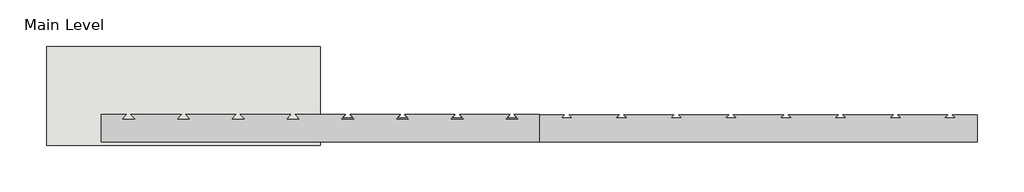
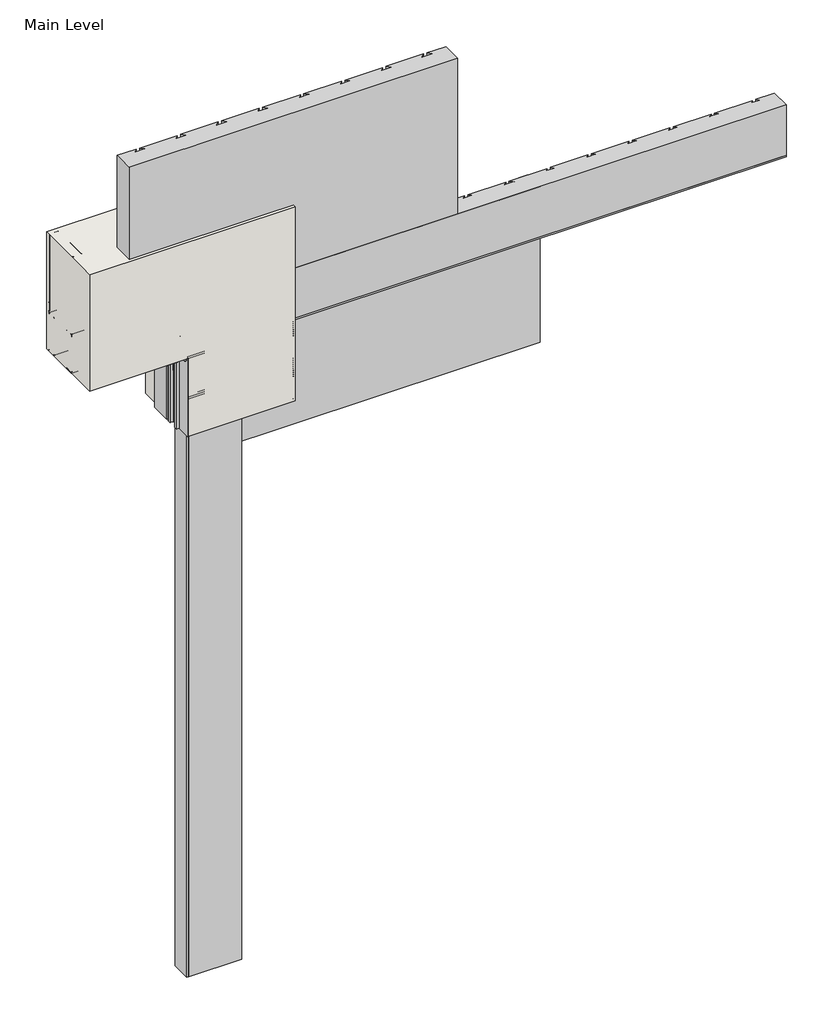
# One storey, incomplete: 28 proxies, 1 wall.
"""IFC4 building model written with IfcOpenShell, lengths in millimetres."""

from ifc_helpers import new_model, si_unit, frame, origin, place, context, project, spatial, polyline, outline, extrude, transform, mapped, element, save
from components import generic_models_31547c53, generic_models_0b6704b8, generic_models_233bf4a6, generic_models_0795693d, generic_models_cb092f88, generic_models_04f31e3c, generic_models_08e6521c, generic_models_d28646c3, proxy_4c3b85e5, proxy_998bcb27, proxy_b027fc18, finish_coat_filler_finish_coat_filler_f99f7fa1, masonry_sill_masonry_sill_85e186c2, masonry_sill1_masonry_sill_665cf46e, masonry_sill2_masonry_sill_baa15611, proxy_a3fd9b0b, proxy_3a0ad636, proxy_0073da47, sealant_sealant_3a8dd322, window_header_window_header_abd4ef46, wood_blocking_5320d369

model = new_model("IFC4")

# Units and contexts
model_context = context("Model", 3, world=origin())
ifc_project = project(units=[si_unit("LENGTHUNIT", "METRE", prefix="MILLI")], contexts=[model_context])

# Site, building, storey
site = spatial("IfcSite", under=ifc_project)
building = spatial("IfcBuilding", under=site)
storey = spatial("IfcBuildingStorey", under=building, Name="Main Level", Elevation=0.0)

# Proxies
placement = place(None, origin())
generic_models_shape = generic_models_31547c53(model_context)
element("IfcBuildingElementProxy", 1, Name="Durabond Generic Model Sealant Vent : Durabond Generic Model Sealant Vent", ObjectType="Durabond Generic Model Sealant Vent : Durabond Generic Model Sealant Vent", at=placement, inside=storey, context=model_context, shape_type="MappedRepresentation", body=[
    mapped(generic_models_shape, transform((26800.7195523, 547.6393211, 304.2607023), x_axis=(1.0, 0.0, 0.0), y_axis=(0.0, 0.08715574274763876, -0.9961946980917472), z_axis=(0.0, 0.9961946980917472, 0.08715574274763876))),
])
generic_models_2_shape = generic_models_0b6704b8(model_context)
element("IfcBuildingElementProxy", 2, Name="Durabond Generic Model Insulation Adhesive Flat : Durabond Generic Model Insulation Adhesive Flat", ObjectType="Durabond Generic Model Insulation Adhesive Flat : Durabond Generic Model Insulation Adhesive Flat", at=placement, inside=storey, context=model_context, shape_type="MappedRepresentation", body=[
    mapped(generic_models_2_shape, transform((26679.6726773, 627.6316297, 381.0), x_axis=(1.0, 0.0, 0.0), y_axis=(0.0, 1.0, 0.0), z_axis=(0.0, 0.0, 1.0))),
])
element("IfcBuildingElementProxy", 3, Name="Durabond Generic Model Insulation Adhesive Flat : Durabond Generic Model Insulation Adhesive Flat", ObjectType="Durabond Generic Model Insulation Adhesive Flat : Durabond Generic Model Insulation Adhesive Flat", at=placement, inside=storey, context=model_context, shape_type="MappedRepresentation", body=[
    mapped(generic_models_2_shape, transform((26755.8726773, 627.6316297, 381.0), x_axis=(1.0, 0.0, 0.0), y_axis=(0.0, 1.0, 0.0), z_axis=(0.0, 0.0, 1.0))),
])
element("IfcBuildingElementProxy", 4, Name="Durabond Generic Model Insulation Adhesive Flat : Durabond Generic Model Insulation Adhesive Flat", ObjectType="Durabond Generic Model Insulation Adhesive Flat : Durabond Generic Model Insulation Adhesive Flat", at=placement, inside=storey, context=model_context, shape_type="MappedRepresentation", body=[
    mapped(generic_models_2_shape, transform((26832.0726773, 627.6316297, 381.0), x_axis=(1.0, 0.0, 0.0), y_axis=(0.0, 1.0, 0.0), z_axis=(0.0, 0.0, 1.0))),
])
generic_models_3_shape = generic_models_233bf4a6(model_context)
element("IfcBuildingElementProxy", 5, Name="Durabond Generic Model Insulation Adhesive Flat : Durabond Generic Model Insulation Adhesive Flat", ObjectType="Durabond Generic Model Insulation Adhesive Flat : Durabond Generic Model Insulation Adhesive Flat", at=placement, inside=storey, context=model_context, shape_type="MappedRepresentation", body=[
    mapped(generic_models_3_shape, transform((26908.2726773, 627.6316297, 0.0), x_axis=(1.0, 0.0, 0.0), y_axis=(0.0, 1.0, 0.0), z_axis=(0.0, 0.0, 1.0))),
])
element("IfcBuildingElementProxy", 6, Name="Durabond Generic Model Insulation Adhesive Flat : Durabond Generic Model Insulation Adhesive Flat", ObjectType="Durabond Generic Model Insulation Adhesive Flat : Durabond Generic Model Insulation Adhesive Flat", at=placement, inside=storey, context=model_context, shape_type="MappedRepresentation", body=[
    mapped(generic_models_3_shape, transform((26984.4726773, 627.6316297, 0.0), x_axis=(1.0, 0.0, 0.0), y_axis=(0.0, 1.0, 0.0), z_axis=(0.0, 0.0, 1.0))),
])
element("IfcBuildingElementProxy", 7, Name="Durabond Generic Model Insulation Adhesive Flat : Durabond Generic Model Insulation Adhesive Flat", ObjectType="Durabond Generic Model Insulation Adhesive Flat : Durabond Generic Model Insulation Adhesive Flat", at=placement, inside=storey, context=model_context, shape_type="MappedRepresentation", body=[
    mapped(generic_models_3_shape, transform((27060.6726773, 627.6316297, 0.0), x_axis=(1.0, 0.0, 0.0), y_axis=(0.0, 1.0, 0.0), z_axis=(0.0, 0.0, 1.0))),
])
element("IfcBuildingElementProxy", 8, Name="Durabond Generic Model Insulation Adhesive Flat : Durabond Generic Model Insulation Adhesive Flat", ObjectType="Durabond Generic Model Insulation Adhesive Flat : Durabond Generic Model Insulation Adhesive Flat", at=placement, inside=storey, context=model_context, shape_type="MappedRepresentation", body=[
    mapped(generic_models_3_shape, transform((27136.8726773, 627.6316297, 0.0), x_axis=(1.0, 0.0, 0.0), y_axis=(0.0, 1.0, 0.0), z_axis=(0.0, 0.0, 1.0))),
])
element("IfcBuildingElementProxy", 9, Name="Durabond Generic Model Insulation Adhesive Flat : Durabond Generic Model Insulation Adhesive Flat", ObjectType="Durabond Generic Model Insulation Adhesive Flat : Durabond Generic Model Insulation Adhesive Flat", at=placement, inside=storey, context=model_context, shape_type="MappedRepresentation", body=[
    mapped(generic_models_3_shape, transform((27213.0726773, 627.6316297, 0.0), x_axis=(1.0, 0.0, 0.0), y_axis=(0.0, 1.0, 0.0), z_axis=(0.0, 0.0, 1.0))),
])
generic_models_4_shape = generic_models_0795693d(model_context)
generic_models_5_shape = generic_models_cb092f88(model_context)
generic_models_6_shape = generic_models_04f31e3c(model_context)
generic_models_7_shape = generic_models_08e6521c(model_context)
element("IfcBuildingElementProxy", 10, Name="CRAi Generic Model Mesh Piece Face Based : CRAi Generic Model Mesh Piece Face Based", ObjectType="CRAi Generic Model Mesh Piece Face Based : CRAi Generic Model Mesh Piece Face Based", at=placement, inside=storey, context=model_context, shape_type="MappedRepresentation", body=[
    mapped(generic_models_4_shape, transform((27054.3226773, 541.9066297, 155.3366797), x_axis=(-1.0, 0.0, 0.0), y_axis=(0.0, 0.0, -1.0), z_axis=(0.0, -1.0, 0.0))),
    mapped(generic_models_5_shape, transform((27054.3226773, 541.9066297, 155.3366797), x_axis=(-1.0, 0.0, 0.0), y_axis=(0.0, 0.0, -1.0), z_axis=(0.0, -1.0, 0.0))),
    mapped(generic_models_6_shape, transform((27054.3226773, 541.9066297, 155.3366797), x_axis=(-1.0, 0.0, 0.0), y_axis=(0.0, 0.0, -1.0), z_axis=(0.0, -1.0, 0.0))),
    mapped(generic_models_7_shape, transform((27054.3226773, 541.9066297, 155.3366797), x_axis=(-1.0, 0.0, 0.0), y_axis=(0.0, 0.0, -1.0), z_axis=(0.0, -1.0, 0.0))),
])
generic_models_8_shape = generic_models_d28646c3(model_context)
element("IfcBuildingElementProxy", 11, Name="CRAi Generic Model Line Based Drip Deflector : CRAi Generic Model Line Based Drip Deflector", ObjectType="CRAi Generic Model Line Based Drip Deflector : CRAi Generic Model Line Based Drip Deflector", at=placement, inside=storey, context=model_context, shape_type="MappedRepresentation", body=[
    mapped(generic_models_8_shape, transform((26855.8851773, 541.5329375, 295.758643), x_axis=(0.0, 0.996194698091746, 0.08715574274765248), y_axis=(-1.0, 0.0, 0.0), z_axis=(0.0, -0.08715574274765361, 0.996194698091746))),
])
proxy_shape = proxy_4c3b85e5(model_context)
element("IfcBuildingElementProxy", 12, Name="Durabond Generic Model Flexlite Boundary Board : 3\"", ObjectType="Durabond Generic Model Flexlite Boundary Board : 3\"", at=placement, inside=storey, context=model_context, shape_type="MappedRepresentation", body=[
    mapped(proxy_shape, transform((26957.4851773, 624.4566297, -908.175778), x_axis=(0.0, 0.0, -1.0), y_axis=(1.0, 0.0, 0.0), z_axis=(0.0, -1.0, 0.0))),
])
proxy_2_shape = proxy_998bcb27(model_context)
element("IfcBuildingElementProxy", 13, Name="Durabond Generic Model Flexlite Insulation Board : 3\"", ObjectType="Durabond Generic Model Flexlite Insulation Board : 3\"", at=placement, inside=storey, context=model_context, shape_type="MappedRepresentation", body=[
    mapped(proxy_2_shape, transform((27251.1726773, 624.4566297, 819.024222), x_axis=(1.0, 0.0, 0.0), y_axis=(0.0, 0.0, 1.0), z_axis=(0.0, -1.0, 0.0))),
])
element("IfcBuildingElementProxy", 14, Name="Durabond Generic Model Flexlite Insulation Board : 3\"", ObjectType="Durabond Generic Model Flexlite Insulation Board : 3\"", at=placement, inside=storey, context=model_context, shape_type="MappedRepresentation", body=[
    mapped(proxy_2_shape, transform((27555.9726773, 624.4566297, 209.424222), x_axis=(1.0, 0.0, 0.0), y_axis=(0.0, 0.0, 1.0), z_axis=(0.0, -1.0, 0.0))),
])
proxy_3_shape = proxy_b027fc18(model_context)
element("IfcBuildingElementProxy", 15, Name="Durabond Generic Model Flexlite Vent Board : 3\"", ObjectType="Durabond Generic Model Flexlite Vent Board : 3\"", at=placement, inside=storey, context=model_context, shape_type="MappedRepresentation", body=[
    mapped(proxy_3_shape, transform((27860.7726773, 624.4566297, 412.624222), x_axis=(1.0, 0.0, 0.0), y_axis=(0.0, 0.0, 1.0), z_axis=(0.0, -1.0, 0.0))),
])
finish_coat_filler_finish_coat_filler_shape = finish_coat_filler_finish_coat_filler_f99f7fa1(model_context)
element("IfcBuildingElementProxy", 16, Name="Finish Coat Filler : Finish Coat Filler", ObjectType="Finish Coat Filler : Finish Coat Filler", at=placement, inside=storey, context=model_context, shape_type="MappedRepresentation", body=[
    mapped(finish_coat_filler_finish_coat_filler_shape, transform((0.0, 0.0, 0.0), x_axis=(1.0, 0.0, 0.0), y_axis=(0.0, 1.0, 0.0), z_axis=(0.0, 0.0, 1.0))),
])
masonry_sill_masonry_sill_shape = masonry_sill_masonry_sill_85e186c2(model_context)
element("IfcBuildingElementProxy", 17, Name="Masonry Sill : Masonry Sill", ObjectType="Masonry Sill : Masonry Sill", at=placement, inside=storey, context=model_context, shape_type="MappedRepresentation", body=[
    mapped(masonry_sill_masonry_sill_shape, transform((0.0, 0.0, 0.0), x_axis=(1.0, 0.0, 0.0), y_axis=(0.0, 1.0, 0.0), z_axis=(0.0, 0.0, 1.0))),
])
masonry_sill1_masonry_sill_shape = masonry_sill1_masonry_sill_665cf46e(model_context)
element("IfcBuildingElementProxy", 18, Name="Masonry Sill1 : Masonry Sill", ObjectType="Masonry Sill1 : Masonry Sill", at=placement, inside=storey, context=model_context, shape_type="MappedRepresentation", body=[
    mapped(masonry_sill1_masonry_sill_shape, transform((0.0, 0.0, 0.0), x_axis=(1.0, 0.0, 0.0), y_axis=(0.0, 1.0, 0.0), z_axis=(0.0, 0.0, 1.0))),
])
masonry_sill2_masonry_sill_shape = masonry_sill2_masonry_sill_baa15611(model_context)
element("IfcBuildingElementProxy", 19, Name="Masonry Sill2 : Masonry Sill", ObjectType="Masonry Sill2 : Masonry Sill", at=placement, inside=storey, context=model_context, shape_type="MappedRepresentation", body=[
    mapped(masonry_sill2_masonry_sill_shape, transform((0.0, 0.0, 0.0), x_axis=(1.0, 0.0, 0.0), y_axis=(0.0, 1.0, 0.0), z_axis=(0.0, 0.0, 1.0))),
])
proxy_4_shape = proxy_a3fd9b0b(model_context)
element("IfcBuildingElementProxy", 20, Name="CRAi Generic Model Metal Stud : Metal Framing Stud - 1\" x 3.5\"", ObjectType="CRAi Generic Model Metal Stud : Metal Framing Stud - 1\" x 3.5\"", at=placement, inside=storey, context=model_context, shape_type="MappedRepresentation", body=[
    mapped(proxy_4_shape, transform((26876.5226773, 726.0566297, 0.0), x_axis=(1.0, 0.0, 0.0), y_axis=(0.0, 1.0, 0.0), z_axis=(0.0, 0.0, 1.0))),
])
proxy_5_shape = proxy_3a0ad636(model_context)
element("IfcBuildingElementProxy", 21, Name="CRAi Generic Model Metal Stud : Metal Framing Stud - 1\" x 3.5\"", ObjectType="CRAi Generic Model Metal Stud : Metal Framing Stud - 1\" x 3.5\"", at=placement, inside=storey, context=model_context, shape_type="MappedRepresentation", body=[
    mapped(proxy_5_shape, transform((26508.2226773, 726.0566297, 0.0), x_axis=(-1.0, 0.0, 0.0), y_axis=(0.0, -1.0, 0.0), z_axis=(0.0, 0.0, 1.0))),
])
element("IfcBuildingElementProxy", 22, Name="CRAi Generic Model Metal Stud : Metal Framing Stud - 1\" x 3.5\"", ObjectType="CRAi Generic Model Metal Stud : Metal Framing Stud - 1\" x 3.5\"", at=placement, inside=storey, context=model_context, shape_type="MappedRepresentation", body=[
    mapped(proxy_5_shape, transform((26876.5226773, 726.0566297, 0.0), x_axis=(-1.0, 0.0, 0.0), y_axis=(0.0, -1.0, 0.0), z_axis=(0.0, 0.0, 1.0))),
])
proxy_6_shape = proxy_0073da47(model_context)
element("IfcBuildingElementProxy", 23, Name="CRAi Generic Model Metal Stud : Metal Framing Stud - 1\" x 3.5\"", ObjectType="CRAi Generic Model Metal Stud : Metal Framing Stud - 1\" x 3.5\"", at=placement, inside=storey, context=model_context, shape_type="MappedRepresentation", body=[
    mapped(proxy_6_shape, transform((26914.6226773, 726.0566297, 0.0), x_axis=(1.0, 0.0, 0.0), y_axis=(0.0, 1.0, 0.0), z_axis=(0.0, 0.0, 1.0))),
])
sealant_sealant_shape = sealant_sealant_3a8dd322(model_context)
element("IfcBuildingElementProxy", 24, Name="Sealant : Sealant", ObjectType="Sealant : Sealant", at=placement, inside=storey, context=model_context, shape_type="MappedRepresentation", body=[
    mapped(sealant_sealant_shape, transform((0.0, 0.0, 0.0), x_axis=(1.0, 0.0, 0.0), y_axis=(0.0, 1.0, 0.0), z_axis=(0.0, 0.0, 1.0))),
])
window_header_window_header_shape = window_header_window_header_abd4ef46(model_context)
element("IfcBuildingElementProxy", 25, Name="Window Header : Window Header", ObjectType="Window Header : Window Header", at=placement, inside=storey, context=model_context, shape_type="MappedRepresentation", body=[
    mapped(window_header_window_header_shape, transform((0.0, 0.0, 0.0), x_axis=(1.0, 0.0, 0.0), y_axis=(0.0, 1.0, 0.0), z_axis=(0.0, 0.0, 1.0))),
])
wood_blocking_shape = wood_blocking_5320d369(model_context)
element("IfcBuildingElementProxy", 26, Name="CRAi Generic Model Line Based Metal Framing Track : Wood Blocking", ObjectType="CRAi Generic Model Line Based Metal Framing Track : Wood Blocking", at=placement, inside=storey, context=model_context, shape_type="MappedRepresentation", body=[
    mapped(wood_blocking_shape, transform((26489.1726773, 649.8566297, 304.8), x_axis=(1.0, 0.0, 0.0), y_axis=(0.0, 1.0, 0.0), z_axis=(0.0, 0.0, 1.0))),
])
element("IfcBuildingElementProxy", 27, Name="CRAi Generic Model Line Based Metal Framing Track : Wood Blocking", ObjectType="CRAi Generic Model Line Based Metal Framing Track : Wood Blocking", at=placement, inside=storey, context=model_context, shape_type="MappedRepresentation", body=[
    mapped(wood_blocking_shape, transform((26489.1726773, 802.257101, 457.2), x_axis=(1.0, 0.0, 0.0), y_axis=(0.0, -1.0, 0.0), z_axis=(0.0, 0.0, -1.0))),
])
element("IfcBuildingElementProxy", 28, Name="CRAi Generic Model Line Based Metal Framing Track : Wood Blocking", ObjectType="CRAi Generic Model Line Based Metal Framing Track : Wood Blocking", at=placement, inside=storey, context=model_context, shape_type="MappedRepresentation", body=[
    mapped(wood_blocking_shape, transform((26489.1726773, 649.8566297, 457.2), x_axis=(1.0, 0.0, 0.0), y_axis=(0.0, 1.0, 0.0), z_axis=(0.0, 0.0, 1.0))),
])

# Wall
element("IfcWall", 29, ObjectType="189mm (7.5”) EIFS Field Applied on Mtl. Stud Layer - 50mm Grooved Insulation Board Metal Stud Wall (AirStop)", at=placement, inside=storey, context=model_context, shape_type="SweptSolid", body=[
    extrude(outline(polyline([(0.0, 27251.1726773), (762.0, 27251.1726773), (762.0, 26489.1726773), (304.8, 26489.1726773), (304.8, 26857.4726773), (0.0, 26857.4726773), (0.0, 27251.1726773)])), frame((0.0, 538.7316297, 0.0), z_axis=(0.0, 1.0, 0.0), x_axis=(0.0, 0.0, 1.0)), (0.0, 0.0, 1.0), 276.225),
])

save(model, "model.ifc")
